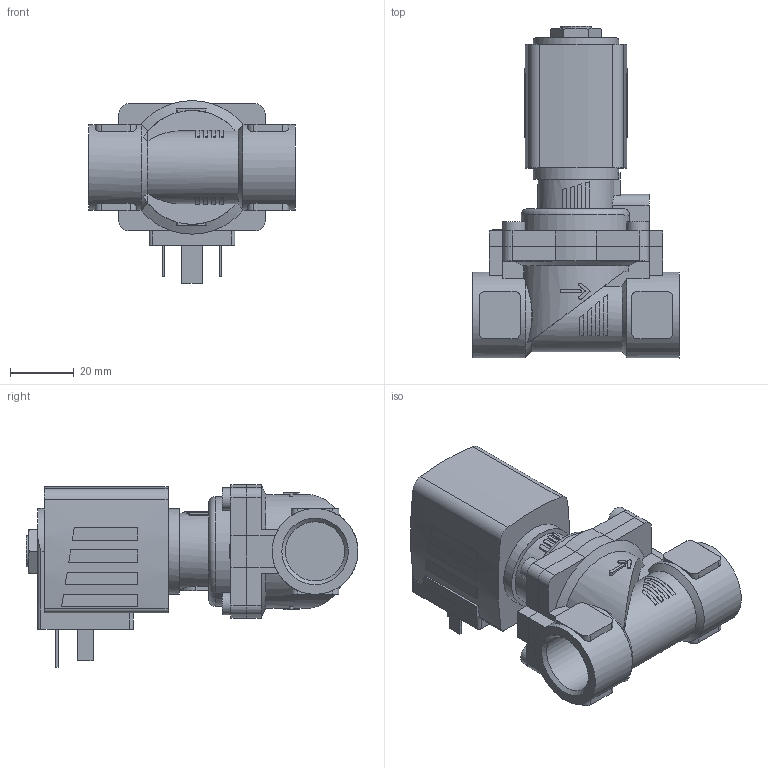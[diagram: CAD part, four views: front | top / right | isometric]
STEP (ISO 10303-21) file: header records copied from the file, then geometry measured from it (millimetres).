
FILE_DESCRIPTION(/* description */ ('STEP AP214'),/* implementation_level */ '2;1');
FILE_NAME(/* name */ '6281-340679-2_2-Way_Solenoid_Valve__Servo-assisted__General_Purpose',/* time_stamp */ '2024-05-14T15:44:19+02:00',/* author */ ('License CC BY-ND 4.0'),/* organization */ ('CADENAS'),/* preprocessor_version */ 'ST-DEVELOPER v19.3',/* originating_system */ 'PARTsolutions',/* authorisation */ ' ');
FILE_SCHEMA (('AUTOMOTIVE_DESIGN {1 0 10303 214 3 1 1}'));
Length unit declared in the file: millimetre
Products named in the file (4): 6281-340679-2/2-Way Solenoid Valve, Servo-assisted, General Purpose; 5281ev130MS2/2-Wege-Magnetventil mit Servomembran-Deckel 42 ; 6213-13G1/2MS-Gehaeuse-lang; AC10ex-5NA38-Plan-Coil
Assembly tree (3 placements, depth 2):
  6281-340679-2/2-Way Solenoid Valve, Servo-assisted, General Purpose
    5281ev130MS2/2-Wege-Magnetventil mit Servomembran-Deckel 42 
    6213-13G1/2MS-Gehaeuse-lang
    AC10ex-5NA38-Plan-Coil
Bounding box: 65 x 104.5 x 57.5 mm (x, y, z)
Volume: 118919 mm3; surface area: 29225.8 mm2
Topology: 3 solids, 3 shells, 341 faces, 871 edges, 570 vertices
Faces by surface type: plane 236, cylinder 91, cone 13, torus 1
Full cylindrical faces by diameter (mm): 2.013 x1, 7 x4, 9.74 x1, 18.631 x2, 27 x3
Entity records: 11620 total; most frequent: CARTESIAN_POINT 2022, DIRECTION 1730, ORIENTED_EDGE 1700, EDGE_CURVE 850, AXIS2_PLACEMENT_3D 604, VERTEX_POINT 564, LINE 522, VECTOR 522
